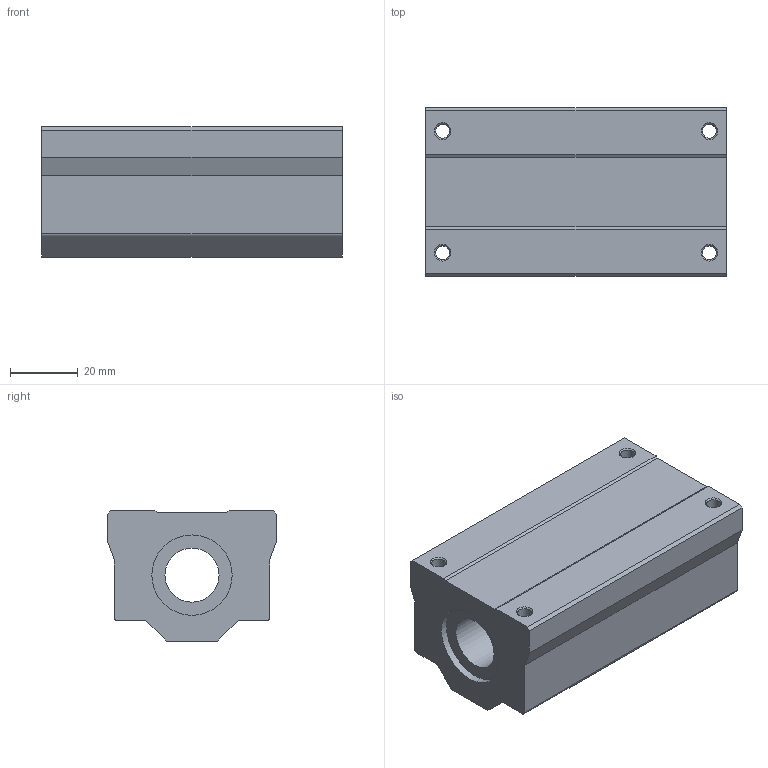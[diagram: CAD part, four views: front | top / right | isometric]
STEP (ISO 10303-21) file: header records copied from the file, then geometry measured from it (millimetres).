
FILE_DESCRIPTION( ( 'Unknown' ), '1' );
FILE_NAME( 'D:/累诀/己绕皋墨飘肺葱胶/11-04-06_档搁累己/01_府聪绢何教/SC W/SC 16W.stp', 'Unknown', ( 'Unknown' ), ( 'Unknown' ), 'PSStep 11.0', 'Unknown', ' ' );
FILE_SCHEMA( ( 'AUTOMOTIVE_DESIGN { 1 0 10303 214 1 1 1 1 }' ) );
Length unit declared in the file: millimetre
Products named in the file (1): 1
Bounding box: 89 x 50 x 38.5 mm (x, y, z)
Volume: 126935.1 mm3; surface area: 23762.1 mm2
Topology: 1 solids, 1 shells, 39 faces, 109 edges, 74 vertices
Faces by surface type: plane 22, cylinder 13, cone 4
Full cylindrical faces by diameter (mm): 4.134 x8, 16 x1, 23.8 x2
Entity records: 1426 total; most frequent: DIRECTION 188, CARTESIAN_POINT 184, ORIENTED_EDGE 164, EDGE_CURVE 82, AXIS2_PLACEMENT_3D 66, EDGE_LOOP 66, VERTEX_POINT 62, LINE 56
